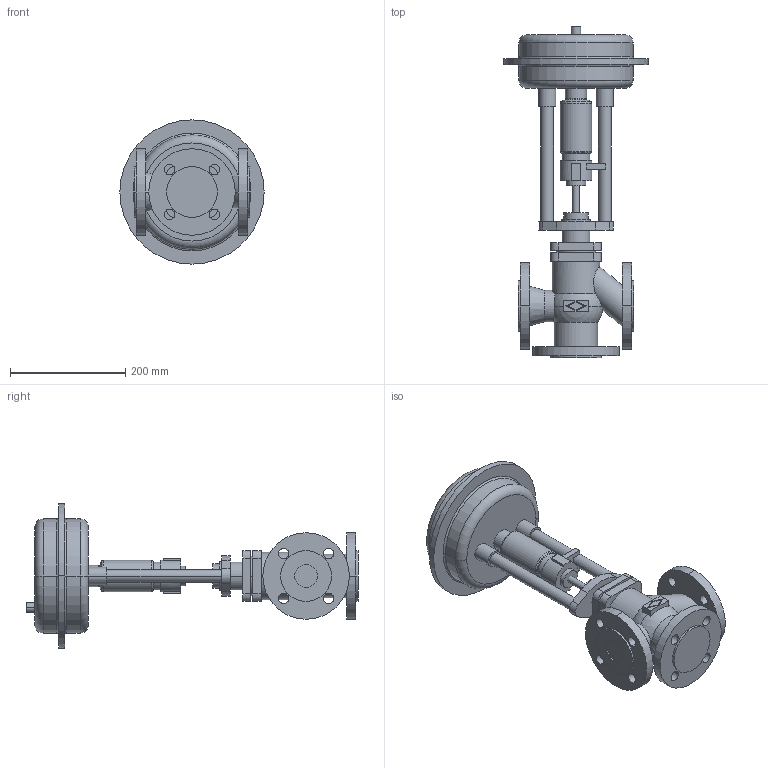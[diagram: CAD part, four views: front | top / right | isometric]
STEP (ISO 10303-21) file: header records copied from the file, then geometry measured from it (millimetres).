
FILE_DESCRIPTION(('OneSpaceDesigner STEP Export'),'2;1');
FILE_NAME('c000000771.stp','2006-09-13T12:39:06',(''),(''),'OneSpace Designer STEP processor for AP214 (Solid Model)','OneSpace Designer 13.20A 18-Aug-2005 (C) CoCreate Software GmbH','');
FILE_SCHEMA(('AUTOMOTIVE_DESIGN { 1 0 10303 214 1 1 1 1 }'));
Length unit declared in the file: millimetre
Products named in the file (2): 1; 2
Bounding box: 250 x 575.5 x 250 mm (x, y, z)
Volume: 5844567 mm3; surface area: 444040.8 mm2
Topology: 2 solids, 2 shells, 203 faces, 490 edges, 319 vertices
Faces by surface type: cylinder 96, plane 81, torus 16, cone 6, sphere 4
Entity records: 5497 total; most frequent: CARTESIAN_POINT 1096, ORIENTED_EDGE 980, DIRECTION 812, EDGE_CURVE 490, VERTEX_POINT 319, AXIS2_PLACEMENT_3D 296, EDGE_LOOP 255, VECTOR 220
